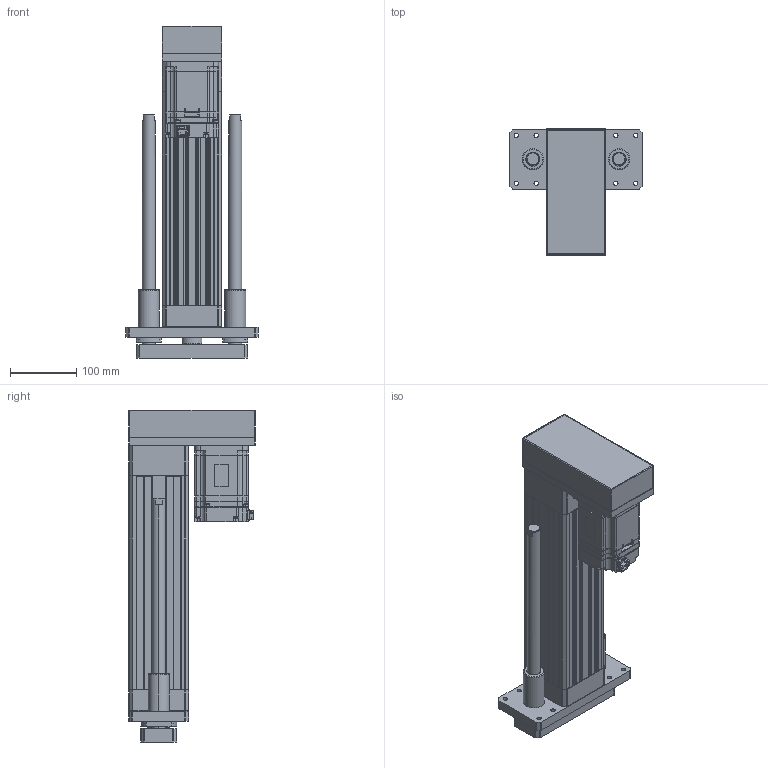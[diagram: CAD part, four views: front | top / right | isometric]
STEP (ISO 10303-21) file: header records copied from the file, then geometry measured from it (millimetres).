
FILE_DESCRIPTION (( 'STEP AP203' ), '1' );
FILE_NAME ('ANS090R-GP200-05(10)(20)-W75.STEP', '2019-03-02T08:54:48', ( 'user' ), ( '' ), 'SwSTEP 2.0', 'SolidWorks 2013', '' );
FILE_SCHEMA (( 'CONFIG_CONTROL_DESIGN' ));
Length unit declared in the file: millimetre
Products named in the file (4): SGMJV_08A_A21; ANS090 ROD ST200-G; ANS090R-GP200-05(10)(20)-W75; ANS090R GP200 VER2
Assembly tree (3 placements, depth 2):
  ANS090R-GP200-05(10)(20)-W75
    ANS090R GP200 VER2
    SGMJV_08A_A21
    ANS090 ROD ST200-G
Bounding box: 200 x 190 x 500 mm (x, y, z)
Volume: 3371498.5 mm3; surface area: 635199.1 mm2
Topology: 3 solids, 7 shells, 1393 faces, 3620 edges, 2322 vertices
Faces by surface type: plane 779, cylinder 454, cone 144, sphere 8, torus 4, bspline 4
Entity records: 43156 total; most frequent: CARTESIAN_POINT 7975, DIRECTION 7322, ORIENTED_EDGE 7200, EDGE_CURVE 3600, AXIS2_PLACEMENT_3D 2441, VECTOR 2440, LINE 2440, VERTEX_POINT 2322
